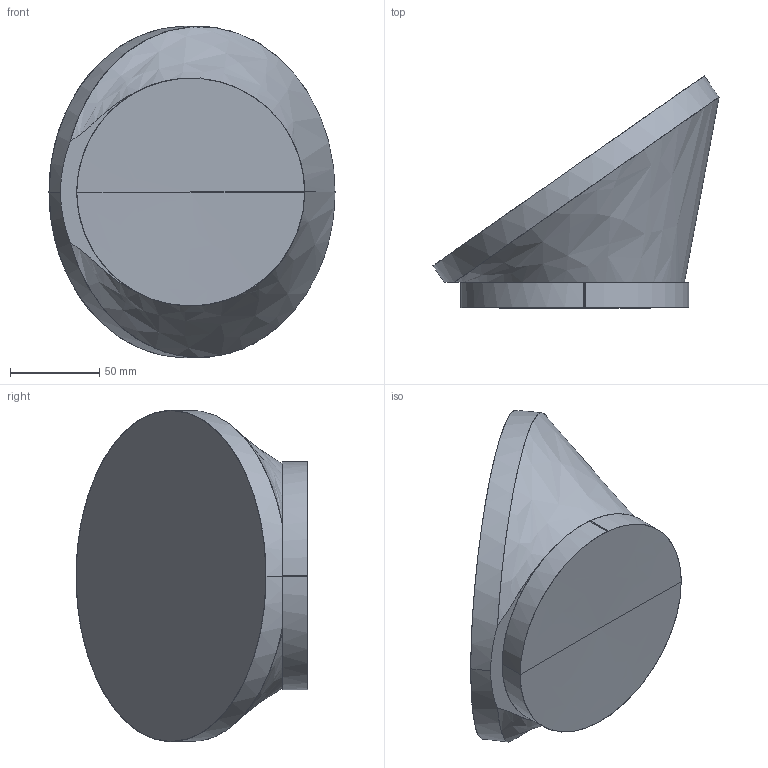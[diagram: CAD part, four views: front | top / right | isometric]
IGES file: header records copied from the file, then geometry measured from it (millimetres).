
Start section: SolidWorks IGES FILE using analytic representation for surfaces
Global section: file name: L:\Projekt\ABB Robotics\P685 PaintRobots2006 CAD-Models\CAD-Underlag IRB5500 TEMPO\SW2004\060711\Left\EngineSaveZip\iges\joints_links\IRB5500_12_T00F71B41V31H51_rev1_7.igs; native system: SolidWorks 2004 by SolidWorks Corporation; preprocessor: Version 5.3; author: joer; date: 060901.140514; units: millimetre
Bounding box: 160.68 x 130.26 x 186 mm (x, y, z)
Surface area: 81123.6 mm2 (no closed solid volume)
Topology: 0 solids, 0 shells, 14 faces, 299 edges, 297 vertices
Faces by surface type: revolution 7, bspline 7
